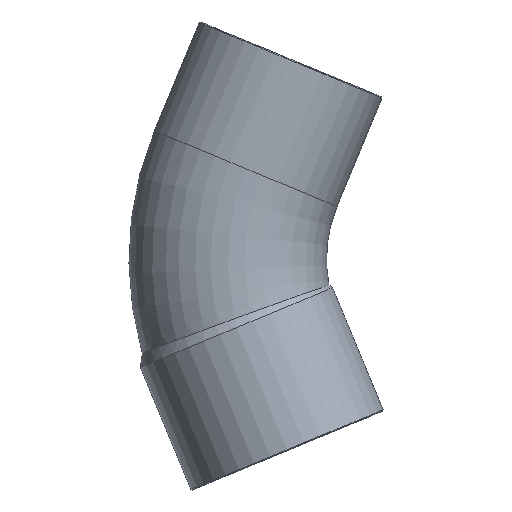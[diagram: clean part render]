
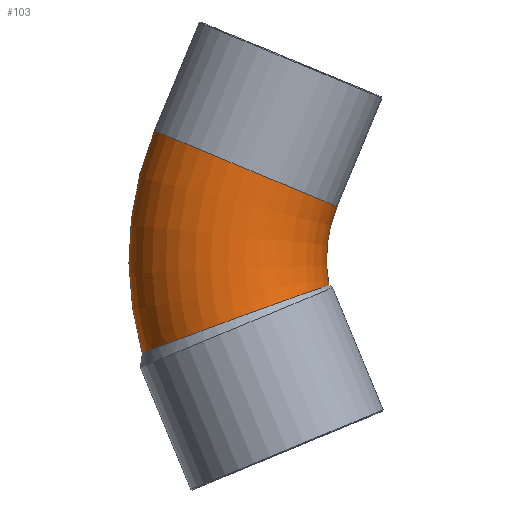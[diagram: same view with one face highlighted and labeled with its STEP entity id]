
A CAD part, front view. The second image highlights one B-rep face of the part: STEP entity #103.
In plain terms, the highlighted toroidal (fillet/blend) face has major radius 50.4 mm and minor radius 21 mm.
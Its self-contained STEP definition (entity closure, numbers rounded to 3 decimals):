
#44=CARTESIAN_POINT('',(4.435,0.,0.));
#45=DIRECTION('',(0.,1.0,0.));
#46=DIRECTION('',(-0.383,0.,0.924));
#47=AXIS2_PLACEMENT_3D('',#44,#45,#46);
#48=TOROIDAL_SURFACE('',#47,50.4,21.0);
#49=CARTESIAN_POINT('',(-64.126,0.,-19.934));
#50=VERTEX_POINT('',#49);
#51=CARTESIAN_POINT('',(-61.53,0.,27.324));
#52=VERTEX_POINT('',#51);
#53=CARTESIAN_POINT('',(4.435,0.,0.));
#54=DIRECTION('',(0.0,1.0,0.0));
#55=DIRECTION('',(0.0,0.0,1.0));
#56=AXIS2_PLACEMENT_3D('',#53,#54,#55);
#57=CIRCLE('',#56,71.4);
#58=EDGE_CURVE('',#50,#52,#57,.T.);
#59=ORIENTED_EDGE('',*,*,#58,.F.);
#60=CARTESIAN_POINT('',(-24.452,0.,-5.467));
#61=VERTEX_POINT('',#60);
#62=CARTESIAN_POINT('',(-64.126,0.,-19.934));
#63=CARTESIAN_POINT('',(-64.126,-1.546,-19.934));
#64=CARTESIAN_POINT('',(-63.966,-3.087,-19.874));
#65=CARTESIAN_POINT('',(-63.331,-6.103,-19.634));
#66=CARTESIAN_POINT('',(-62.858,-7.569,-19.456));
#67=CARTESIAN_POINT('',(-61.143,-11.44,-18.809));
#68=CARTESIAN_POINT('',(-59.603,-13.66,-18.23));
#69=CARTESIAN_POINT('',(-55.804,-17.354,-16.805));
#70=CARTESIAN_POINT('',(-53.578,-18.789,-15.973));
#71=CARTESIAN_POINT('',(-48.723,-20.671,-14.17));
#72=CARTESIAN_POINT('',(-46.139,-21.096,-13.215));
#73=CARTESIAN_POINT('',(-40.954,-20.867,-11.316));
#74=CARTESIAN_POINT('',(-38.403,-20.214,-10.39));
#75=CARTESIAN_POINT('',(-33.686,-17.91,-8.695));
#76=CARTESIAN_POINT('',(-31.562,-16.286,-7.941));
#77=CARTESIAN_POINT('',(-28.036,-12.286,-6.703));
#78=CARTESIAN_POINT('',(-26.659,-9.956,-6.226));
#79=CARTESIAN_POINT('',(-24.89,-5.042,-5.617));
#80=CARTESIAN_POINT('',(-24.452,-2.532,-5.467));
#81=CARTESIAN_POINT('',(-24.452,0.,-5.467));
#82=B_SPLINE_CURVE_WITH_KNOTS('',3,(#62,#63,#64,#65,#66,#67,#68,#69,#70,#71,#72,#73,#74,#75,#76,#77,#78,#79,#80,#81),.UNSPECIFIED.,.F.,.U.,(4,2,2,2,2,2,2,2,2,4),(-13.269,-12.805,-12.341,-11.52,-10.695,-9.867,-9.038,-8.213,-7.396,-6.635),.UNSPECIFIED.);
#83=EDGE_CURVE('',#50,#61,#82,.T.);
#84=ORIENTED_EDGE('',*,*,#83,.T.);
#85=CARTESIAN_POINT('',(-22.727,0.,11.251));
#86=VERTEX_POINT('',#85);
#87=CARTESIAN_POINT('',(4.435,0.,0.));
#88=DIRECTION('',(0.0,-1.0,0.0));
#89=DIRECTION('',(0.0,0.0,1.0));
#90=AXIS2_PLACEMENT_3D('',#87,#88,#89);
#91=CIRCLE('',#90,29.4);
#92=EDGE_CURVE('',#86,#61,#91,.T.);
#93=ORIENTED_EDGE('',*,*,#92,.F.);
#94=CARTESIAN_POINT('',(-42.129,0.,19.287));
#95=DIRECTION('',(-0.383,0.,-0.924));
#96=DIRECTION('',(-0.924,0.,0.383));
#97=AXIS2_PLACEMENT_3D('',#94,#95,#96);
#98=CIRCLE('',#97,21.);
#99=EDGE_CURVE('',#86,#52,#98,.T.);
#100=ORIENTED_EDGE('',*,*,#99,.T.);
#101=EDGE_LOOP('',(#59,#84,#93,#100));
#102=FACE_OUTER_BOUND('',#101,.T.);
#103=ADVANCED_FACE('',(#102),#48,.T.);
